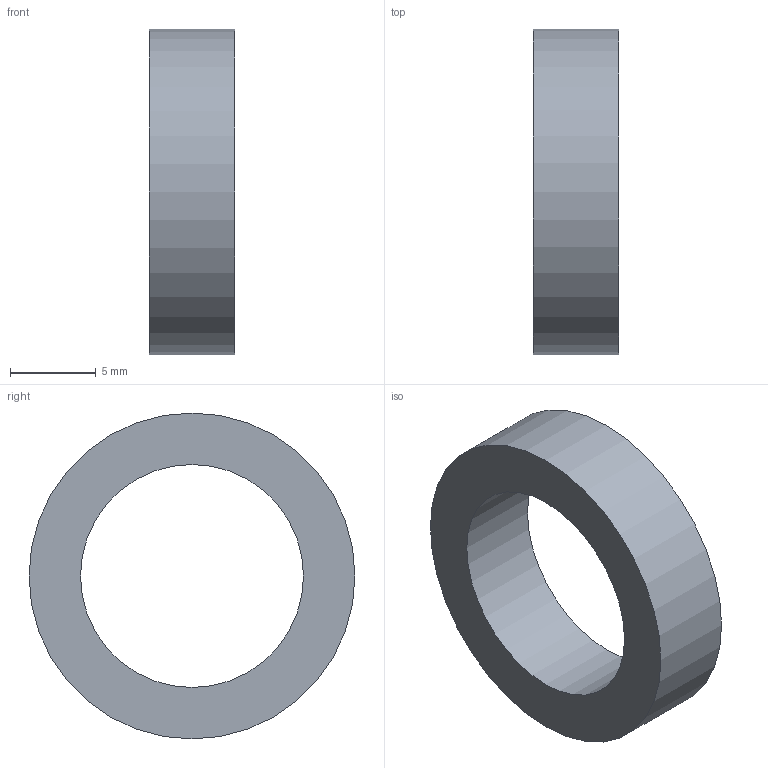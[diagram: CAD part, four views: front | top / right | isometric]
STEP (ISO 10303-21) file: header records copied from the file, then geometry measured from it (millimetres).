
FILE_DESCRIPTION(('FreeCAD Model'),'2;1');
FILE_NAME('Open CASCADE Shape Model','2026-11-20T08:25:36',('FreeCAD'),( 'FreeCAD'),'Open CASCADE STEP processor 7.8','FreeCAD','Unknown');
FILE_SCHEMA(('AUTOMOTIVE_DESIGN { 1 0 10303 214 1 1 1 1 }'));
Length unit declared in the file: millimetre
Products named in the file (1): Open CASCADE STEP translator 7.8 28
Bounding box: 5 x 19 x 19 mm (x, y, z)
Volume: 754 mm3; surface area: 804.2 mm2
Topology: 1 solids, 1 shells, 4 faces, 6 edges, 4 vertices
Faces by surface type: cylinder 2, plane 2
Full cylindrical faces by diameter (mm): 13 x1, 19 x1
Entity records: 108 total; most frequent: DIRECTION 20, CARTESIAN_POINT 15, ORIENTED_EDGE 12, AXIS2_PLACEMENT_3D 9, FACE_BOUND 6, EDGE_LOOP 6, EDGE_CURVE 6, ADVANCED_FACE 4
